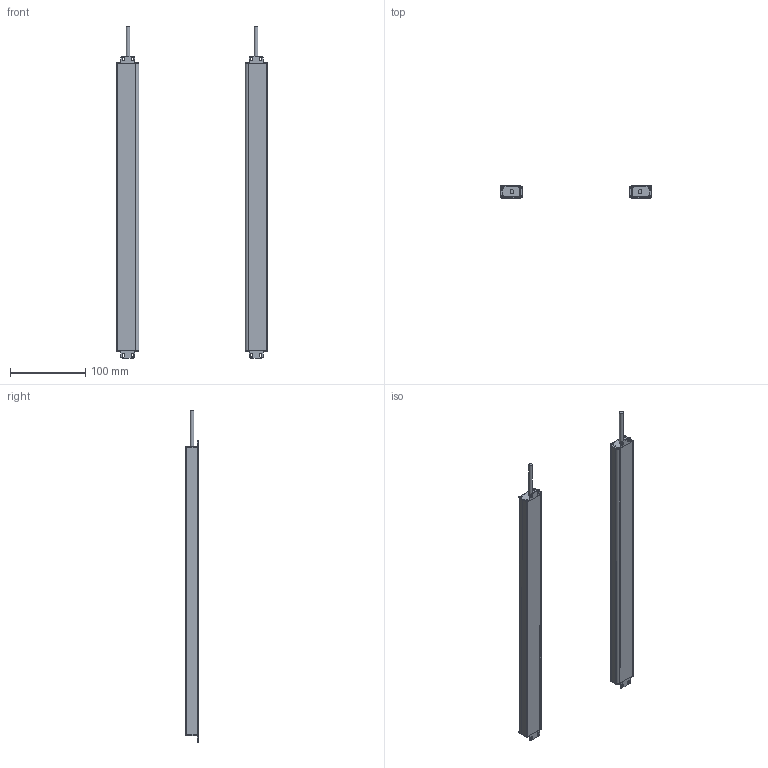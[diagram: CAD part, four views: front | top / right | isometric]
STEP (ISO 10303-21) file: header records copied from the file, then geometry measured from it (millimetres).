
FILE_DESCRIPTION(/* description */ (''),/* implementation_level */ '2;1');
FILE_NAME(/* name */ '3810（16X30w).stp',/* time_stamp */ '2021-03-31T14:42:44+08:00',/* author */ (''),/* organization */ (''),/* preprocessor_version */ 'ST-DEVELOPER v16',/* originating_system */ 'SIEMENS PLM Software NX 10.0',/* authorisation */ '');
FILE_SCHEMA (('AP203_CONFIGURATION_CONTROLLED_3D_DESIGN_OF_MECHANICAL_PARTS_AND_ASSEMBLIES_MIM_LF { 1 0 10303 403 2 1 2}'));
Length unit declared in the file: millimetre
Products named in the file (1): Admi07BCC7D9tajn
Bounding box: 200 x 16 x 441.5 mm (x, y, z)
Volume: 111981.2 mm3; surface area: 165867.3 mm2
Topology: 10 solids, 10 shells, 296 faces, 830 edges, 554 vertices
Faces by surface type: plane 160, cylinder 136
Full cylindrical faces by diameter (mm): 5 x2
Entity records: 9760 total; most frequent: DIRECTION 1692, CARTESIAN_POINT 1675, ORIENTED_EDGE 1652, EDGE_CURVE 826, AXIS2_PLACEMENT_3D 569, LINE 554, VECTOR 554, VERTEX_POINT 552
